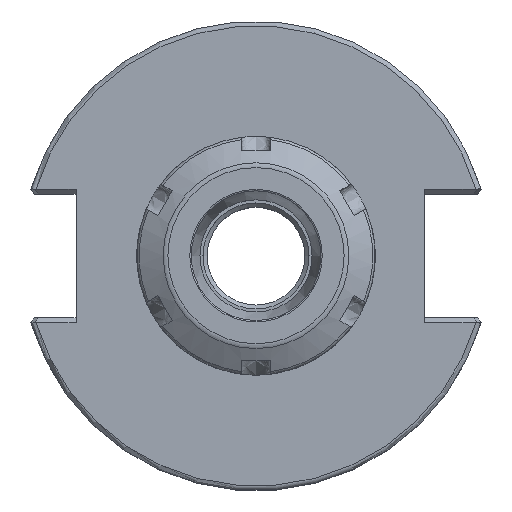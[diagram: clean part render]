
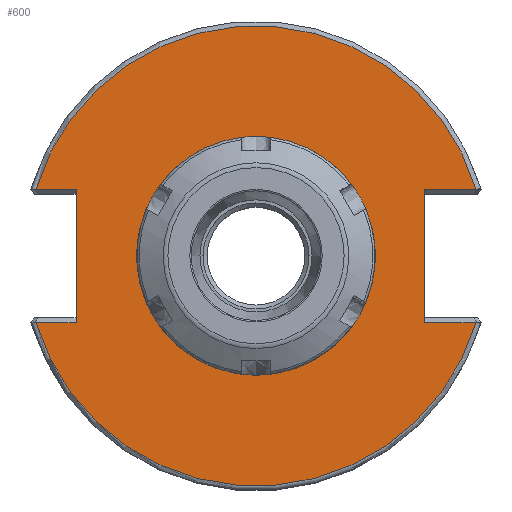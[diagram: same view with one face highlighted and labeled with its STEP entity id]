
A CAD part, top view. The second image highlights one B-rep face of the part: STEP entity #600.
In plain terms, the highlighted planar face has unit normal (0, 0, 1).
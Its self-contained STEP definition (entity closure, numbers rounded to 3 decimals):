
#327=FACE_BOUND('',#921,.T.);
#328=FACE_BOUND('',#922,.T.);
#600=ADVANCED_FACE('',(#327,#328),#714,.T.);
#714=PLANE('',#2878);
#921=EDGE_LOOP('',(#1761));
#922=EDGE_LOOP('',(#1762,#1763,#1764,#1765,#1766,#1767,#1768,#1769));
#1106=CIRCLE('',#2875,25.);
#1107=CIRCLE('',#2876,48.215);
#1108=CIRCLE('',#2877,48.215);
#1217=LINE('',#4429,#1355);
#1218=LINE('',#4432,#1356);
#1219=LINE('',#4436,#1357);
#1220=LINE('',#4438,#1358);
#1221=LINE('',#4440,#1359);
#1222=LINE('',#4444,#1360);
#1355=VECTOR('',#3305,1.);
#1356=VECTOR('',#3306,1.);
#1357=VECTOR('',#3309,1.);
#1358=VECTOR('',#3310,1.);
#1359=VECTOR('',#3311,1.);
#1360=VECTOR('',#3314,1.);
#1761=ORIENTED_EDGE('',*,*,#2553,.F.);
#1762=ORIENTED_EDGE('',*,*,#2554,.T.);
#1763=ORIENTED_EDGE('',*,*,#2555,.T.);
#1764=ORIENTED_EDGE('',*,*,#2556,.T.);
#1765=ORIENTED_EDGE('',*,*,#2557,.T.);
#1766=ORIENTED_EDGE('',*,*,#2558,.F.);
#1767=ORIENTED_EDGE('',*,*,#2559,.T.);
#1768=ORIENTED_EDGE('',*,*,#2560,.T.);
#1769=ORIENTED_EDGE('',*,*,#2561,.T.);
#2254=VERTEX_POINT('',#4428);
#2255=VERTEX_POINT('',#4430);
#2256=VERTEX_POINT('',#4431);
#2257=VERTEX_POINT('',#4433);
#2258=VERTEX_POINT('',#4435);
#2259=VERTEX_POINT('',#4437);
#2260=VERTEX_POINT('',#4439);
#2261=VERTEX_POINT('',#4441);
#2262=VERTEX_POINT('',#4443);
#2553=EDGE_CURVE('',#2254,#2254,#1106,.T.);
#2554=EDGE_CURVE('',#2255,#2256,#1217,.T.);
#2555=EDGE_CURVE('',#2256,#2257,#1218,.T.);
#2556=EDGE_CURVE('',#2257,#2258,#1107,.T.);
#2557=EDGE_CURVE('',#2258,#2259,#1219,.T.);
#2558=EDGE_CURVE('',#2260,#2259,#1220,.T.);
#2559=EDGE_CURVE('',#2260,#2261,#1221,.T.);
#2560=EDGE_CURVE('',#2261,#2262,#1108,.T.);
#2561=EDGE_CURVE('',#2262,#2255,#1222,.T.);
#2875=AXIS2_PLACEMENT_3D('',#4427,#3303,#3304);
#2876=AXIS2_PLACEMENT_3D('',#4434,#3307,#3308);
#2877=AXIS2_PLACEMENT_3D('',#4442,#3312,#3313);
#2878=AXIS2_PLACEMENT_3D('',#4445,#3315,#3316);
#3303=DIRECTION('',(0.,0.,1.));
#3304=DIRECTION('',(1.,0.,0.));
#3305=DIRECTION('',(0.,1.,0.));
#3306=DIRECTION('',(1.,0.,0.));
#3307=DIRECTION('',(0.,0.,1.));
#3308=DIRECTION('',(1.,0.,0.));
#3309=DIRECTION('',(1.,0.,0.));
#3310=DIRECTION('',(0.,1.,0.));
#3311=DIRECTION('',(-1.,0.,0.));
#3312=DIRECTION('',(0.,0.,1.));
#3313=DIRECTION('',(1.,0.,0.));
#3314=DIRECTION('',(-1.,0.,0.));
#3315=DIRECTION('',(0.,0.,1.));
#3316=DIRECTION('',(-1.,0.,0.));
#4427=CARTESIAN_POINT('',(0.,0.,120.65));
#4428=CARTESIAN_POINT('',(25.,0.,120.65));
#4429=CARTESIAN_POINT('',(35.31,-49.215,120.65));
#4430=CARTESIAN_POINT('',(35.31,-13.955,120.65));
#4431=CARTESIAN_POINT('',(35.31,13.955,120.65));
#4432=CARTESIAN_POINT('',(0.,13.955,120.65));
#4433=CARTESIAN_POINT('',(46.151,13.955,120.65));
#4434=CARTESIAN_POINT('',(0.,0.,120.65));
#4435=CARTESIAN_POINT('',(-46.151,13.955,120.65));
#4436=CARTESIAN_POINT('',(-37.72,13.955,120.65));
#4437=CARTESIAN_POINT('',(-37.72,13.955,120.65));
#4438=CARTESIAN_POINT('',(-37.72,-49.215,120.65));
#4439=CARTESIAN_POINT('',(-37.72,-13.955,120.65));
#4440=CARTESIAN_POINT('',(-46.442,-13.955,120.65));
#4441=CARTESIAN_POINT('',(-46.151,-13.955,120.65));
#4442=CARTESIAN_POINT('',(0.,0.,120.65));
#4443=CARTESIAN_POINT('',(46.151,-13.955,120.65));
#4444=CARTESIAN_POINT('',(0.,-13.955,120.65));
#4445=CARTESIAN_POINT('',(0.,-49.215,120.65));
